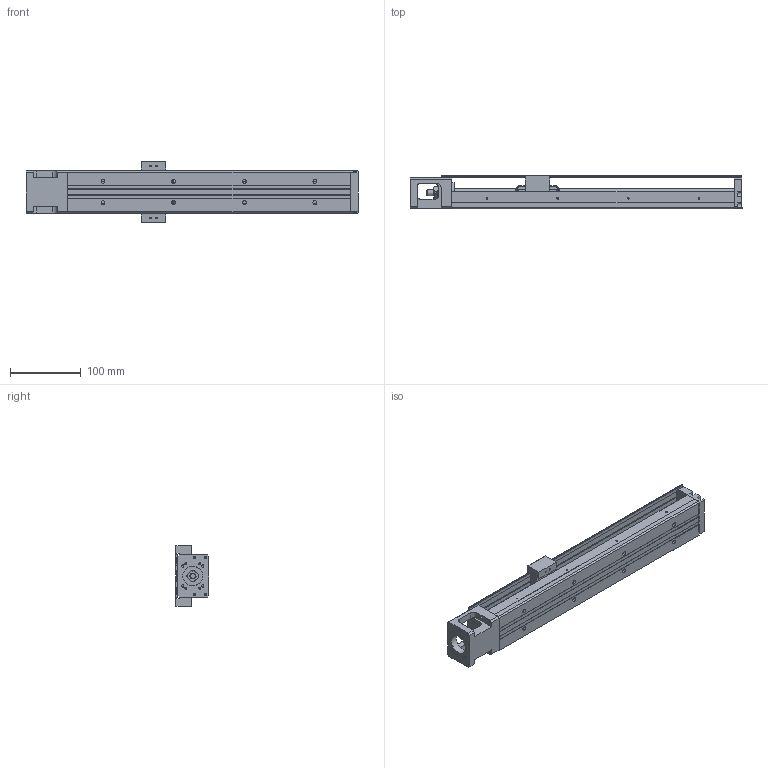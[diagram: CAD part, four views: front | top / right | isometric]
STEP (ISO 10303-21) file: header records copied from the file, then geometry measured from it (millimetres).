
FILE_DESCRIPTION(/* description */ (''),/* implementation_level */ '2;1');
FILE_NAME(/* name */ 'KP33S-400-C-D.stp',/* time_stamp */ '2020-06-04T17:55:43+08:00',/* author */ (''),/* organization */ (''),/* preprocessor_version */ 'ST-DEVELOPER v14',/* originating_system */ 'SIEMENS PLM Software NX 8.0',/* authorisation */ '');
FILE_SCHEMA (('AUTOMOTIVE_DESIGN { 1 0 10303 214 3 1 1 1 }'));
Length unit declared in the file: millimetre
Products named in the file (1): model1
Bounding box: 470 x 47.95 x 86 mm (x, y, z)
Volume: 599582 mm3; surface area: 214574.9 mm2
Topology: 7 solids, 16 shells, 708 faces, 1799 edges, 1188 vertices
Faces by surface type: plane 423, cylinder 200, bspline 31, cone 22, extrusion 21, torus 9, revolution 2
Full cylindrical faces by diameter (mm): 1.6 x4, 1.65 x4, 2.15 x8, 2.42 x4, 2.45 x8, 2.5 x16, 3.2 x4, 3.3 x4, 3.4 x4, 3.5 x10, 3.969 x1, 4 x4, 4.001 x1, 4.135 x2, 4.2 x2, 5.5 x8, 6 x4, 7.6 x1, 8 x5, 9.5 x8, 10.72 x3, 11.8 x2, 12 x6, 12.8 x1, 13 x2, 14 x1, 17.38 x3, 21.5 x1, 22 x2, 28 x1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
Entity records: 36482 total; most frequent: CARTESIAN_POINT 16522, DIRECTION 3218, ORIENTED_EDGE 3126, EDGE_CURVE 1563, AXIS2_PLACEMENT_3D 1127, VERTEX_POINT 1109, EDGE_LOOP 1000, VECTOR 962
